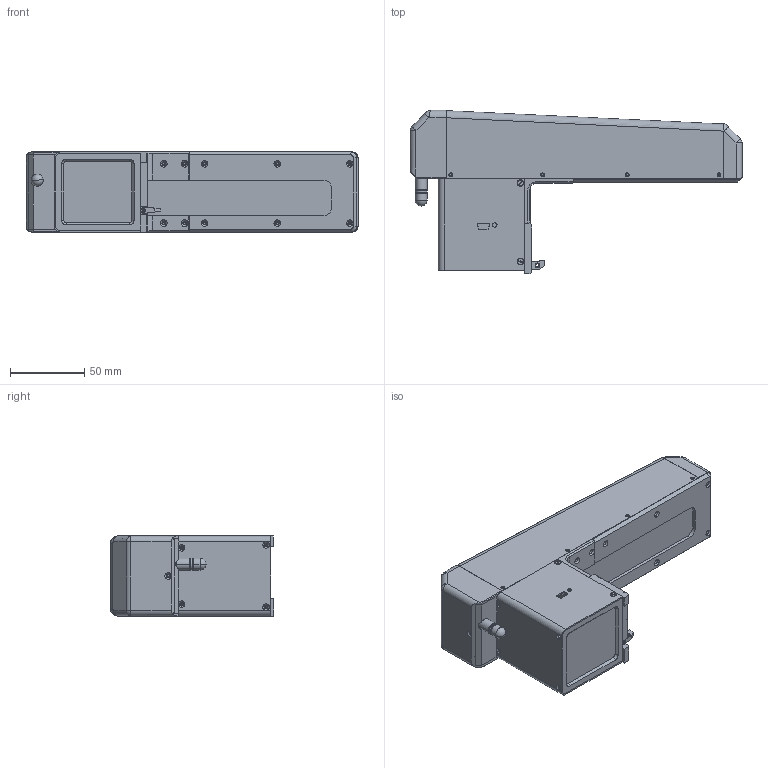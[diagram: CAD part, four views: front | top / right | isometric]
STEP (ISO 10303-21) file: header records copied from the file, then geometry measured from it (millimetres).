
FILE_DESCRIPTION (( 'STEP AP203' ), '1' );
FILE_NAME ('Ñåðèÿ ÈÊÏ short.STEP', '2020-09-25T07:58:02', ( 'user' ), ( 'Ref' ), 'SwSTEP 2.0', 'SolidWorks 2015', '' );
FILE_SCHEMA (( 'CONFIG_CONTROL_DESIGN' ));
Length unit declared in the file: millimetre
Products named in the file (25): ﾀ炅褊浯 韈 ﾋ頸糺; Âèíò_Ì2õ8 ïîòàé; Ïëàíêà ëåâàÿ; 幄鍧; Óïîð ëåâûé 115; 俶.041.00.023; 鱼铍铌 镳噔 115; 俶 505.60.004; Îñíîâàíèå òðàìâàéíîãî 115 USB; ÐóêîÿòêàUSB ÑÁ äëÿ òðàìâàéíîãî ïðîôèëîìåòðà; Áëåíäà òðàìâàéíîãî 115; Âèíò_Ì2õ4; Âèíò_Ì3x8 â ïîòàé; 妈眚_󉞁0_鲨腠漯; 俶 505.60.019; Ïëàíêà ïðàâàÿ -01; Ðóêîÿòêà USB äëÿ òðàìâàéíîãî; Îñíîâàíèå òðàìâàéíîãî 115 USB ÑÁ; 嚦樏鋋 115; Ïëàíêà ìàãíèòíàÿ äëÿ ïîëüñêîãî; Âèíò_Ì2õ6; Ñåðèÿ ÈÊÏ short; 俶 505.60.018; Ïëàñòèíà çàäíÿÿ ìàãíèòíàÿ; Êîæóõ ðóêîÿòêè USB òðàìâàéíîãî
Assembly tree (33 placements, depth 3):
  Ñåðèÿ ÈÊÏ short
    ÐóêîÿòêàUSB ÑÁ äëÿ òðàìâàéíîãî ïðîôèëîìåòðà
      Ðóêîÿòêà USB äëÿ òðàìâàéíîãî
      Âèíò_Ì2õ6  x4
      Êîæóõ ðóêîÿòêè USB òðàìâàéíîãî
      Ïëàíêà ëåâàÿ
      Óïîð ëåâûé 115
      鱼铍铌 镳噔 115
    Âèíò_Ì3x8 â ïîòàé  x7
    Ïëàíêà ïðàâàÿ -01
    Ïëàíêà ìàãíèòíàÿ äëÿ ïîëüñêîãî
    Ïëàñòèíà çàäíÿÿ ìàãíèòíàÿ
    Âèíò_Ì2õ8 ïîòàé
    幄鍧
    俶.041.00.023
    Îñíîâàíèå òðàìâàéíîãî 115 USB ÑÁ
      Îñíîâàíèå òðàìâàéíîãî 115 USB
      Âèíò_Ì2õ4
      俶 505.60.019
      嚦樏鋋 115
      俶 505.60.018
      ﾀ炅褊浯 韈 ﾋ頸糺
      俶 505.60.004
      Áëåíäà òðàìâàéíîãî 115
      妈眚_󉞁0_鲨腠漯
Bounding box: 224 x 110.04 x 54 mm (x, y, z)
Volume: 165787.9 mm3; surface area: 177138.5 mm2
Topology: 32 solids, 32 shells, 1105 faces, 2869 edges, 1806 vertices
Faces by surface type: plane 441, cylinder 435, cone 193, torus 18, bspline 14, sphere 4
Entity records: 34403 total; most frequent: CARTESIAN_POINT 6802, DIRECTION 5343, ORIENTED_EDGE 5022, EDGE_CURVE 2511, AXIS2_PLACEMENT_3D 1927, VERTEX_POINT 1611, LINE 1489, VECTOR 1489
